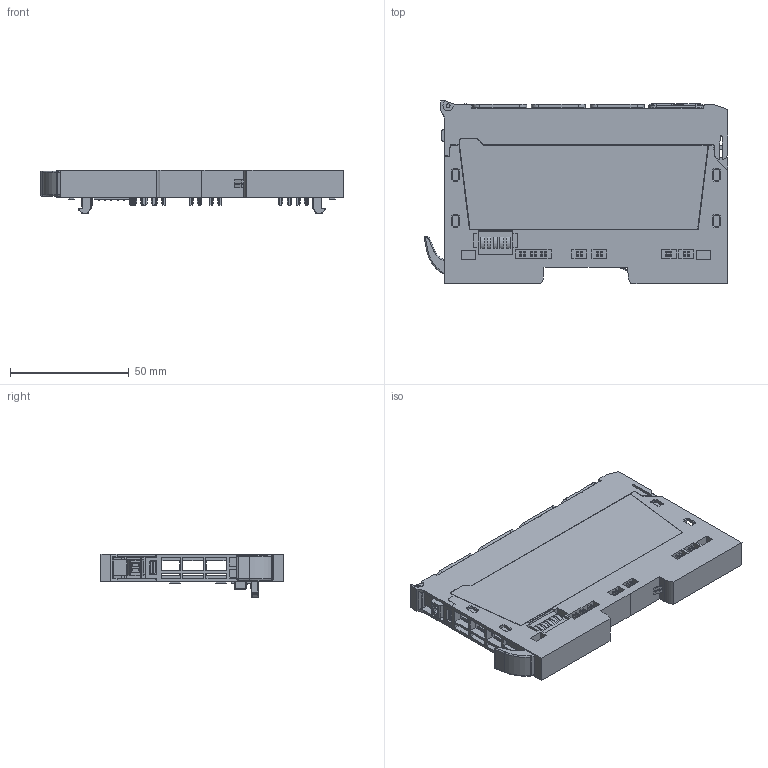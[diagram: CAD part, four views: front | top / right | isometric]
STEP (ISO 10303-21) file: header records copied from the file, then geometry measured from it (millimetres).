
FILE_DESCRIPTION(('CATIA V5R19 STEP'),'2;1');
FILE_NAME('\\srvde068\Desktop\w011128\Gordon Brandlable GE\RT-7641_UR20-PF-O.stp','2015-08-11T07:01:03+00:00',('Weidmueller Interface'),('WI'),'CATIA Version 5 Release 20 SP 5 (IN-10)','CATIA V5 STEP AP214','none');
FILE_SCHEMA(('AUTOMOTIVE_DESIGN { 1 0 10303 214 1 1 1 1 }'));
Products named in the file (1): RT-7641_UR20-PF-O
Bounding box: 127.88 x 77.45 x 18.5 mm (x, y, z)
Volume: 57557.5 mm3; surface area: 71029.9 mm2
Topology: 12 solids, 16 shells, 3701 faces, 10344 edges, 6738 vertices
Faces by surface type: plane 2796, cylinder 553, bspline 187, cone 90, torus 31, sphere 24, revolution 16, extrusion 4
Entity records: 142720 total; most frequent: CARTESIAN_POINT 32576, ORIENTED_EDGE 20626, DIRECTION 13951, EDGE_CURVE 10313, VECTOR 8284, LINE 8280, VERTEX_POINT 6738, EDGE_LOOP 3943
